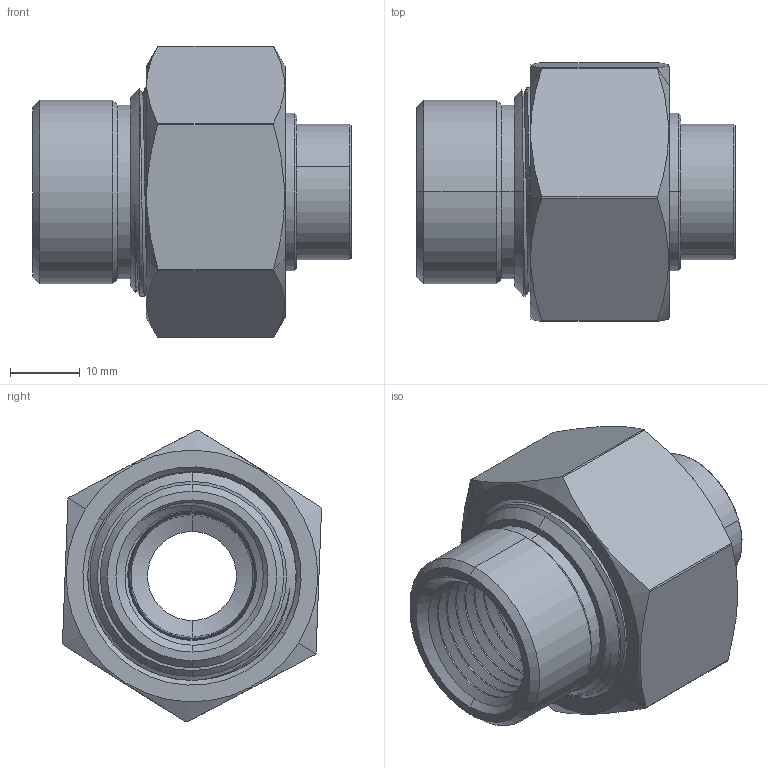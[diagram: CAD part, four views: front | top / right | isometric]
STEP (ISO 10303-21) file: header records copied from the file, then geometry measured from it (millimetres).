
FILE_DESCRIPTION(('Open CASCADE Model'),'2;1');
FILE_NAME('Open CASCADE Shape Model','2022-03-21T11:40:35',('Author'),( 'Open CASCADE'),'Open CASCADE STEP processor 7.3','Open CASCADE 7.3' ,'Unknown');
FILE_SCHEMA(('AUTOMOTIVE_DESIGN { 1 0 10303 214 1 1 1 1 }'));
Length unit declared in the file: millimetre
Products named in the file (6): Open CASCADE STEP translator 7.3 1; Open CASCADE STEP translator 7.3 1.1; Open CASCADE STEP translator 7.3 1.2; Open CASCADE STEP translator 7.3 1.3; Open CASCADE STEP translator 7.3 1.4; Open CASCADE STEP translator 7.3 1.5
Assembly tree (5 placements, depth 2):
  Open CASCADE STEP translator 7.3 1
    Open CASCADE STEP translator 7.3 1.1
    Open CASCADE STEP translator 7.3 1.2
    Open CASCADE STEP translator 7.3 1.3
    Open CASCADE STEP translator 7.3 1.4
    Open CASCADE STEP translator 7.3 1.5
Bounding box: 45.8 x 37.27 x 41.98 mm (x, y, z)
Volume: 23471 mm3; surface area: 17875.5 mm2
Topology: 5 solids, 5 shells, 157 faces, 382 edges, 242 vertices
Faces by surface type: cylinder 66, cone 54, plane 25, bspline 6, torus 6
Entity records: 24609 total; most frequent: CARTESIAN_POINT 17416, DIRECTION 1187, ORIENTED_EDGE 764, PCURVE 764, DEFINITIONAL_REPRESENTATION 764, LINE 575, VECTOR 575, EDGE_CURVE 382
